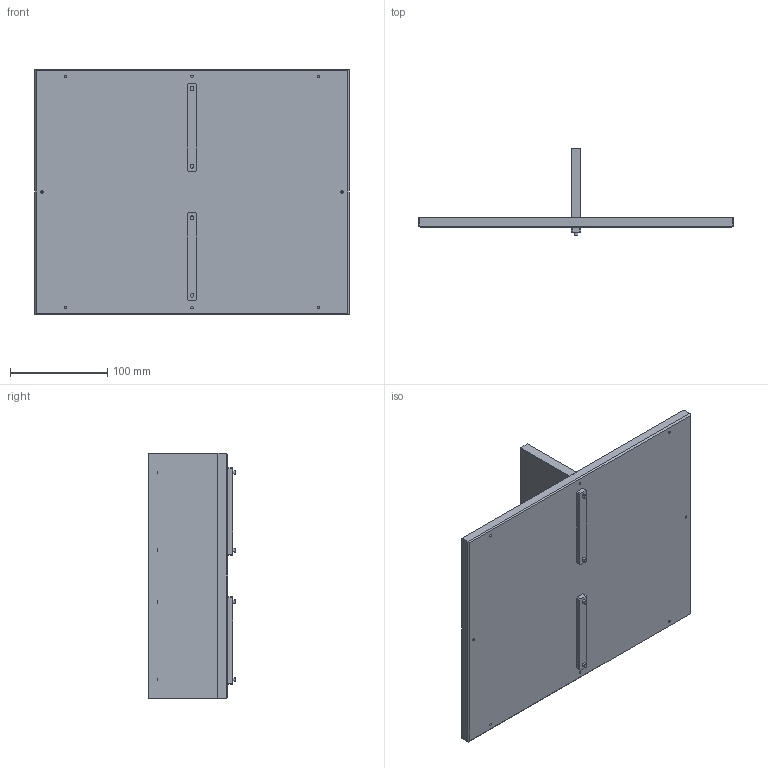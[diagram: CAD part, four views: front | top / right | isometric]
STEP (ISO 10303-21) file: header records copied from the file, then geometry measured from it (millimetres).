
FILE_DESCRIPTION (( 'STEP AP214' ), '1' );
FILE_NAME ('Asyril_FLAT VIBRATING PLATE 380 SEP - H85_000.104.974_(option).STEP', '2021-10-18T06:55:17', ( '' ), ( '' ), 'SwSTEP 2.0', 'SolidWorks 2017', '' );
FILE_SCHEMA (( 'AUTOMOTIVE_DESIGN' ));
Length unit declared in the file: millimetre
Products named in the file (1): Asyril_FLAT VIBRATING PLATE 380 SEP - H85_000.104.974_(option)
Bounding box: 323.8 x 89.5 x 252.8 mm (x, y, z)
Volume: 1005365.4 mm3; surface area: 215613.7 mm2
Topology: 1 solids, 1 shells, 105 faces, 232 edges, 152 vertices
Faces by surface type: plane 57, cylinder 40, torus 8
Entity records: 3777 total; most frequent: DIRECTION 540, CARTESIAN_POINT 490, ORIENTED_EDGE 464, EDGE_CURVE 232, AXIS2_PLACEMENT_3D 202, VERTEX_POINT 152, VECTOR 136, LINE 136
